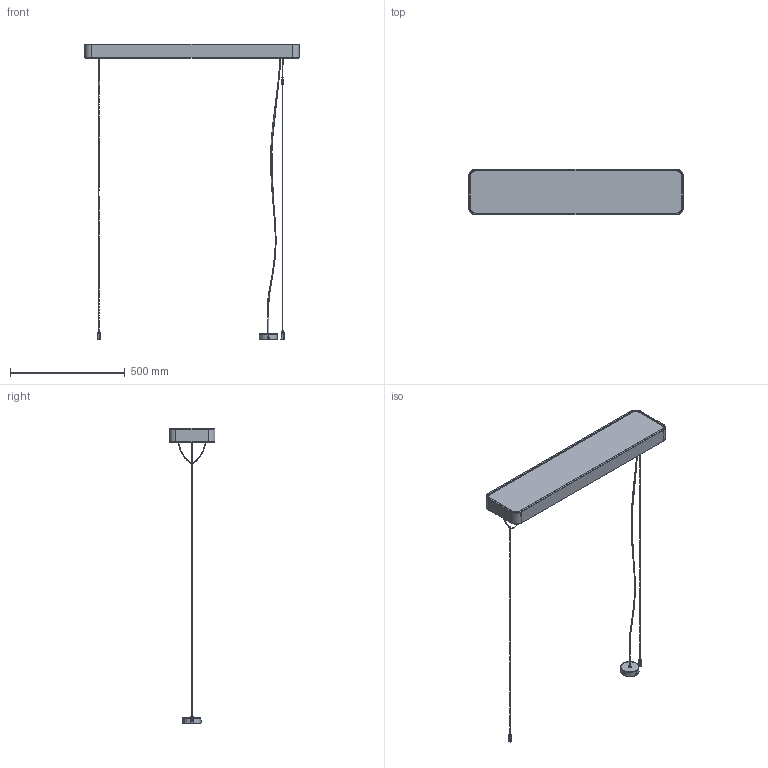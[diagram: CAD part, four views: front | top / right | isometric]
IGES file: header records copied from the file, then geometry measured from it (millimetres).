
Start section: SolidWorks IGES file using analytic representation for surfaces
Global section: file name: Z:\Modele 3D_WWW\_KOLEKCJE_WWW\SOFT-LED\SOFT-LED-90X20-9544-9542\SOFT-LED-90X20-9544-9542.IGS; native system: SolidWorks 2020; preprocessor: SolidWorks 2020; author: gabriela.tworek; date: 210512.113533; units: millimetre
Bounding box: 935 x 200 x 1288.28 mm (x, y, z)
Surface area: 1088804.3 mm2 (no closed solid volume)
Topology: 0 solids, 0 shells, 2063 faces, 19752 edges, 19746 vertices
Faces by surface type: bspline 1557, revolution 506
